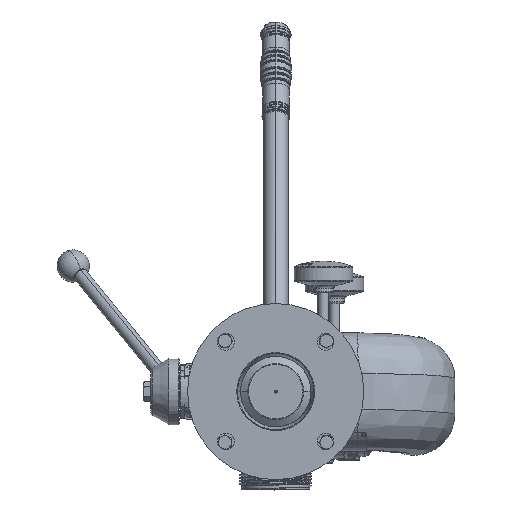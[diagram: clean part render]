
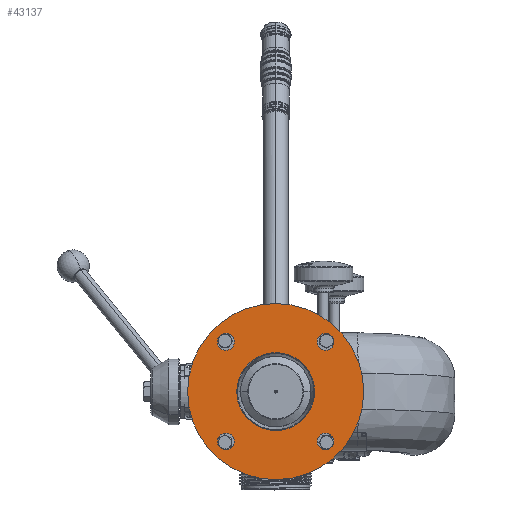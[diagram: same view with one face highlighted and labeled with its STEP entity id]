
A CAD part, front view. The second image highlights one B-rep face of the part: STEP entity #43137.
In plain terms, the highlighted planar face has unit normal (0, -1, 0).
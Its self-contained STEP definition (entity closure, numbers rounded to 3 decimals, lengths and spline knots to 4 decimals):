
#41834=CARTESIAN_POINT('',(2.1213,-7.25,2.1213));
#41835=DIRECTION('',(0.,1.,0.));
#41836=DIRECTION('',(-1.,0.,0.));
#41837=AXIS2_PLACEMENT_3D('',#41834,#41835,#41836);
#41839=CARTESIAN_POINT('',(2.1213,-7.25,2.1213));
#41840=DIRECTION('',(0.,1.,0.));
#41841=DIRECTION('',(1.,0.,0.));
#41842=AXIS2_PLACEMENT_3D('',#41839,#41840,#41841);
#41844=CARTESIAN_POINT('',(2.1213,-7.25,-2.1213));
#41845=DIRECTION('',(0.,1.,0.));
#41846=DIRECTION('',(-1.,0.,0.));
#41847=AXIS2_PLACEMENT_3D('',#41844,#41845,#41846);
#41849=CARTESIAN_POINT('',(2.1213,-7.25,-2.1213));
#41850=DIRECTION('',(0.,1.,0.));
#41851=DIRECTION('',(1.,0.,0.));
#41852=AXIS2_PLACEMENT_3D('',#41849,#41850,#41851);
#41854=CARTESIAN_POINT('',(-2.1213,-7.25,-2.1213));
#41855=DIRECTION('',(0.,1.,0.));
#41856=DIRECTION('',(-1.,0.,0.));
#41857=AXIS2_PLACEMENT_3D('',#41854,#41855,#41856);
#41859=CARTESIAN_POINT('',(-2.1213,-7.25,-2.1213));
#41860=DIRECTION('',(0.,1.,0.));
#41861=DIRECTION('',(1.,0.,0.));
#41862=AXIS2_PLACEMENT_3D('',#41859,#41860,#41861);
#41864=CARTESIAN_POINT('',(-2.1213,-7.25,2.1213));
#41865=DIRECTION('',(0.,1.,0.));
#41866=DIRECTION('',(-1.,0.,0.));
#41867=AXIS2_PLACEMENT_3D('',#41864,#41865,#41866);
#41869=CARTESIAN_POINT('',(-2.1213,-7.25,2.1213));
#41870=DIRECTION('',(0.,1.,0.));
#41871=DIRECTION('',(1.,0.,0.));
#41872=AXIS2_PLACEMENT_3D('',#41869,#41870,#41871);
#41874=CARTESIAN_POINT('',(-1.6562,-7.25,
0.));
#41875=CARTESIAN_POINT('',(-1.6562,-7.25,
0.0888));
#41876=CARTESIAN_POINT('',(-1.6422,-7.25,
0.2654));
#41877=CARTESIAN_POINT('',(-1.5767,-7.25,
0.5317));
#41878=CARTESIAN_POINT('',(-1.4668,-7.25,
0.7857));
#41879=CARTESIAN_POINT('',(-1.3156,-7.25,
1.0188));
#41880=CARTESIAN_POINT('',(-1.1292,-7.25,
1.222));
#41881=CARTESIAN_POINT('',(-0.9127,-7.25,
1.3911));
#41882=CARTESIAN_POINT('',(-0.6708,-7.25,
1.5227));
#41883=CARTESIAN_POINT('',(-0.4097,-7.25,
1.6127));
#41884=CARTESIAN_POINT('',(-0.1376,-7.25,
1.6582));
#41885=CARTESIAN_POINT('',(0.1379,-7.25,
1.6581));
#41886=CARTESIAN_POINT('',(0.4099,-7.25,
1.6126));
#41887=CARTESIAN_POINT('',(0.671,-7.25,
1.5226));
#41888=CARTESIAN_POINT('',(0.913,-7.25,
1.391));
#41889=CARTESIAN_POINT('',(1.1294,-7.25,
1.2218));
#41890=CARTESIAN_POINT('',(1.3158,-7.25,
1.0185));
#41891=CARTESIAN_POINT('',(1.4669,-7.25,
0.7855));
#41892=CARTESIAN_POINT('',(1.5768,-7.25,
0.5314));
#41893=CARTESIAN_POINT('',(1.6422,-7.25,
0.2652));
#41894=CARTESIAN_POINT('',(1.6562,-7.25,
0.0887));
#41895=CARTESIAN_POINT('',(1.6562,-7.25,
0.));
#41897=CARTESIAN_POINT('',(1.6562,-7.25,
0.));
#41898=CARTESIAN_POINT('',(1.6562,-7.25,
-0.0888));
#41899=CARTESIAN_POINT('',(1.6422,-7.25,
-0.2654));
#41900=CARTESIAN_POINT('',(1.5767,-7.25,
-0.5317));
#41901=CARTESIAN_POINT('',(1.4668,-7.25,
-0.7857));
#41902=CARTESIAN_POINT('',(1.3156,-7.25,
-1.0188));
#41903=CARTESIAN_POINT('',(1.1292,-7.25,
-1.222));
#41904=CARTESIAN_POINT('',(0.9127,-7.25,
-1.3911));
#41905=CARTESIAN_POINT('',(0.6708,-7.25,
-1.5227));
#41906=CARTESIAN_POINT('',(0.4097,-7.25,
-1.6127));
#41907=CARTESIAN_POINT('',(0.1376,-7.25,
-1.6582));
#41908=CARTESIAN_POINT('',(-0.1379,-7.25,
-1.6581));
#41909=CARTESIAN_POINT('',(-0.4099,-7.25,
-1.6126));
#41910=CARTESIAN_POINT('',(-0.671,-7.25,
-1.5226));
#41911=CARTESIAN_POINT('',(-0.913,-7.25,
-1.391));
#41912=CARTESIAN_POINT('',(-1.1294,-7.25,
-1.2218));
#41913=CARTESIAN_POINT('',(-1.3158,-7.25,
-1.0185));
#41914=CARTESIAN_POINT('',(-1.4669,-7.25,
-0.7855));
#41915=CARTESIAN_POINT('',(-1.5768,-7.25,
-0.5314));
#41916=CARTESIAN_POINT('',(-1.6422,-7.25,
-0.2652));
#41917=CARTESIAN_POINT('',(-1.6562,-7.25,
-0.0887));
#41918=CARTESIAN_POINT('',(-1.6562,-7.25,
0.));
#41920=CARTESIAN_POINT('',(0.,-7.25,0.));
#41921=DIRECTION('',(0.,-1.,0.));
#41922=DIRECTION('',(1.,0.,0.));
#41923=AXIS2_PLACEMENT_3D('',#41920,#41921,#41922);
#41925=CARTESIAN_POINT('',(0.,-7.25,0.));
#41926=DIRECTION('',(0.,-1.,0.));
#41927=DIRECTION('',(-1.,0.,0.));
#41928=AXIS2_PLACEMENT_3D('',#41925,#41926,#41927);
#42868=CARTESIAN_POINT('',(1.7618,-7.25,2.1213));
#42869=CARTESIAN_POINT('',(2.4808,-7.25,2.1213));
#42870=VERTEX_POINT('',#42868);
#42871=VERTEX_POINT('',#42869);
#42876=CARTESIAN_POINT('',(1.7618,-7.25,-2.1213));
#42877=CARTESIAN_POINT('',(2.4808,-7.25,-2.1213));
#42878=VERTEX_POINT('',#42876);
#42879=VERTEX_POINT('',#42877);
#42884=CARTESIAN_POINT('',(-2.4808,-7.25,-2.1213));
#42885=CARTESIAN_POINT('',(-1.7618,-7.25,-2.1213));
#42886=VERTEX_POINT('',#42884);
#42887=VERTEX_POINT('',#42885);
#42892=CARTESIAN_POINT('',(-2.4808,-7.25,2.1213));
#42893=CARTESIAN_POINT('',(-1.7618,-7.25,2.1213));
#42894=VERTEX_POINT('',#42892);
#42895=VERTEX_POINT('',#42893);
#42908=CARTESIAN_POINT('',(3.75,-7.25,0.));
#42909=CARTESIAN_POINT('',(-3.75,-7.25,0.));
#42910=VERTEX_POINT('',#42908);
#42911=VERTEX_POINT('',#42909);
#42924=VERTEX_POINT('',#41874);
#42925=VERTEX_POINT('',#41895);
#43097=CARTESIAN_POINT('',(0.,-7.25,0.));
#43098=DIRECTION('',(0.,-1.,0.));
#43099=DIRECTION('',(-1.,0.,0.));
#43100=AXIS2_PLACEMENT_3D('',#43097,#43098,#43099);
#43101=PLANE('',#43100);
#43103=ORIENTED_EDGE('',*,*,#43102,.F.);
#43105=ORIENTED_EDGE('',*,*,#43104,.F.);
#43106=EDGE_LOOP('',(#43103,#43105));
#43107=FACE_OUTER_BOUND('',#43106,.F.);
#43109=ORIENTED_EDGE('',*,*,#43108,.F.);
#43111=ORIENTED_EDGE('',*,*,#43110,.F.);
#43112=EDGE_LOOP('',(#43109,#43111));
#43113=FACE_BOUND('',#43112,.F.);
#43115=ORIENTED_EDGE('',*,*,#43114,.F.);
#43117=ORIENTED_EDGE('',*,*,#43116,.F.);
#43118=EDGE_LOOP('',(#43115,#43117));
#43119=FACE_BOUND('',#43118,.F.);
#43121=ORIENTED_EDGE('',*,*,#43120,.F.);
#43123=ORIENTED_EDGE('',*,*,#43122,.F.);
#43124=EDGE_LOOP('',(#43121,#43123));
#43125=FACE_BOUND('',#43124,.F.);
#43127=ORIENTED_EDGE('',*,*,#43126,.F.);
#43129=ORIENTED_EDGE('',*,*,#43128,.F.);
#43130=EDGE_LOOP('',(#43127,#43129));
#43131=FACE_BOUND('',#43130,.F.);
#43132=ORIENTED_EDGE('',*,*,#43087,.F.);
#43134=ORIENTED_EDGE('',*,*,#43133,.F.);
#43135=EDGE_LOOP('',(#43132,#43134));
#43136=FACE_BOUND('',#43135,.F.);
#41838=CIRCLE('',#41837,0.3595);
#41843=CIRCLE('',#41842,0.3595);
#41848=CIRCLE('',#41847,0.3595);
#41853=CIRCLE('',#41852,0.3595);
#41858=CIRCLE('',#41857,0.3595);
#41863=CIRCLE('',#41862,0.3595);
#41868=CIRCLE('',#41867,0.3595);
#41873=CIRCLE('',#41872,0.3595);
#41896=B_SPLINE_CURVE_WITH_KNOTS('',3,(#41874,#41875,#41876,#41877,#41878,
#41879,#41880,#41881,#41882,#41883,#41884,#41885,#41886,#41887,#41888,#41889,
#41890,#41891,#41892,#41893,#41894,#41895),.UNSPECIFIED.,.F.,.F.,(4,1,1,1,1,1,1,
1,1,1,1,1,1,1,1,1,1,1,1,4),(0.,0.0526,0.1053,
0.1579,0.2105,0.2632,0.3158,
0.3684,0.4211,0.4737,0.5263,
0.5789,0.6316,0.6842,0.7368,
0.7895,0.8421,0.8947,0.9474,1.),
.UNSPECIFIED.);
#41919=B_SPLINE_CURVE_WITH_KNOTS('',3,(#41897,#41898,#41899,#41900,#41901,
#41902,#41903,#41904,#41905,#41906,#41907,#41908,#41909,#41910,#41911,#41912,
#41913,#41914,#41915,#41916,#41917,#41918),.UNSPECIFIED.,.F.,.F.,(4,1,1,1,1,1,1,
1,1,1,1,1,1,1,1,1,1,1,1,4),(0.,0.0526,0.1053,
0.1579,0.2105,0.2632,0.3158,
0.3684,0.4211,0.4737,0.5263,
0.5789,0.6316,0.6842,0.7368,
0.7895,0.8421,0.8947,0.9474,1.),
.UNSPECIFIED.);
#41924=CIRCLE('',#41923,3.75);
#41929=CIRCLE('',#41928,3.75);
#43087=EDGE_CURVE('',#42870,#42871,#41838,.T.);
#43102=EDGE_CURVE('',#42910,#42911,#41924,.T.);
#43104=EDGE_CURVE('',#42911,#42910,#41929,.T.);
#43108=EDGE_CURVE('',#42878,#42879,#41848,.T.);
#43110=EDGE_CURVE('',#42879,#42878,#41853,.T.);
#43114=EDGE_CURVE('',#42886,#42887,#41858,.T.);
#43116=EDGE_CURVE('',#42887,#42886,#41863,.T.);
#43120=EDGE_CURVE('',#42894,#42895,#41868,.T.);
#43122=EDGE_CURVE('',#42895,#42894,#41873,.T.);
#43126=EDGE_CURVE('',#42924,#42925,#41896,.T.);
#43128=EDGE_CURVE('',#42925,#42924,#41919,.T.);
#43133=EDGE_CURVE('',#42871,#42870,#41843,.T.);
#43137=ADVANCED_FACE('',(#43107,#43113,#43119,#43125,#43131,#43136),#43101,.T.);
